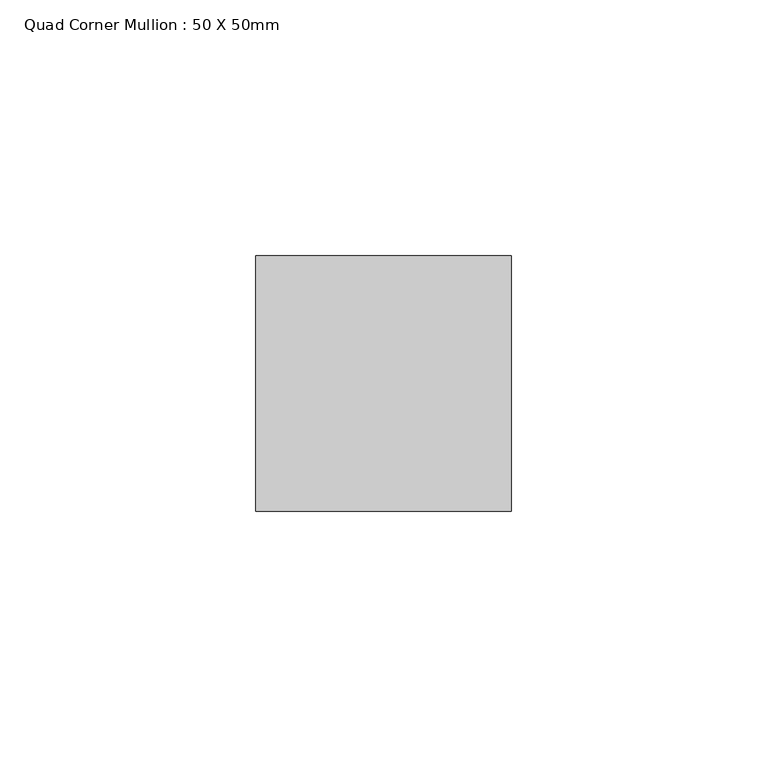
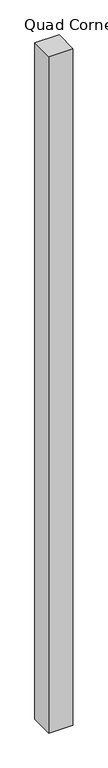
"""IFC4 building model written with IfcOpenShell, lengths in millimetres: member geometry, Quad Corner Mullion : 50 X 50mm."""

from ifc_helpers import new_model, si_unit, frame, origin, place, context, project, spatial, polyline, outline, extrude, source, transform, mapped, element, save


def quad_corner_mullion_50_x_50mm_52126559(model_context):
    return source(origin(), model_context, "Body", "SweptSolid", [
        extrude(outline(polyline([(25.0, -25.0), (-25.0, -25.0), (-25.0, 25.0), (25.0, 25.0), (25.0, -25.0)])), frame((0.0, 0.0, -1482.917575), z_axis=(0.0, 0.0, 1.0), x_axis=(1.0, 0.0, 0.0)), (0.0, 0.0, 1.0), 1482.917575),
    ])


if __name__ == "__main__":
    model = new_model("IFC4")
    model_context = context("Model", 3, world=origin())
    ifc_project = project(units=[si_unit("LENGTHUNIT", "METRE", prefix="MILLI")], contexts=[model_context])
    site = spatial("IfcSite", under=ifc_project)
    building = spatial("IfcBuilding", under=site)
    placement = place(None, origin())
    quad_corner_mullion_50_x_50mm_shape = quad_corner_mullion_50_x_50mm_52126559(model_context)
    element("IfcMember", 1, ObjectType="Quad Corner Mullion : 50 X 50mm", at=placement, inside=building, context=model_context, shape_type="MappedRepresentation", body=[
        mapped(quad_corner_mullion_50_x_50mm_shape, transform((0.0, 0.0, 0.0), x_axis=(1.0, 0.0, 0.0), y_axis=(0.0, 1.0, 0.0), z_axis=(0.0, 0.0, 1.0))),
    ])
    save(model, "model.ifc")
